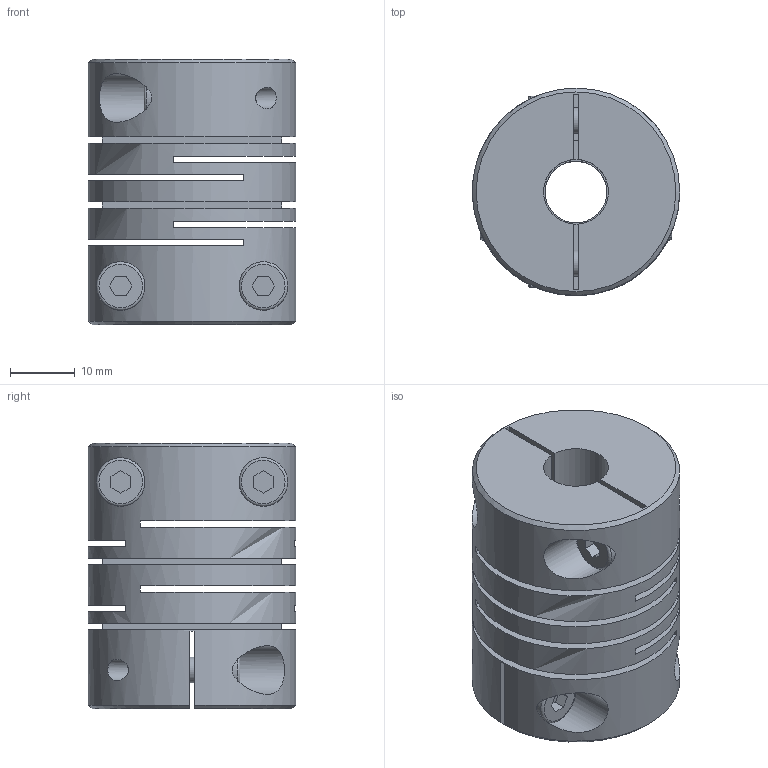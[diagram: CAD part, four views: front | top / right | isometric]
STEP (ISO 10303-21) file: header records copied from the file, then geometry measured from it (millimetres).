
FILE_DESCRIPTION (( 'STEP AP214' ), '1' );
FILE_NAME ('2246-32-B10-3_8-NI.step', '2022-05-27T09:31:09', ( '' ), ( '' ), 'SwSTEP 2.0', 'SolidWorks 2019', '' );
FILE_SCHEMA (( 'AUTOMOTIVE_DESIGN' ));
Length unit declared in the file: millimetre
Products named in the file (1): 2246-32-B10-3_8-NI
Bounding box: 32 x 32 x 41 mm (x, y, z)
Volume: 25175.3 mm3; surface area: 14952 mm2
Topology: 1 solids, 1 shells, 116 faces, 293 edges, 196 vertices
Faces by surface type: plane 75, cylinder 30, cone 7, torus 4
Full cylindrical faces by diameter (mm): 3.3 x4, 4 x4, 4.5 x4, 9.525 x4, 10 x3, 32 x1
Entity records: 4206 total; most frequent: CARTESIAN_POINT 1009, DIRECTION 524, ORIENTED_EDGE 458, EDGE_CURVE 229, AXIS2_PLACEMENT_3D 194, EDGE_LOOP 188, VERTEX_POINT 165, FACE_OUTER_BOUND 140
